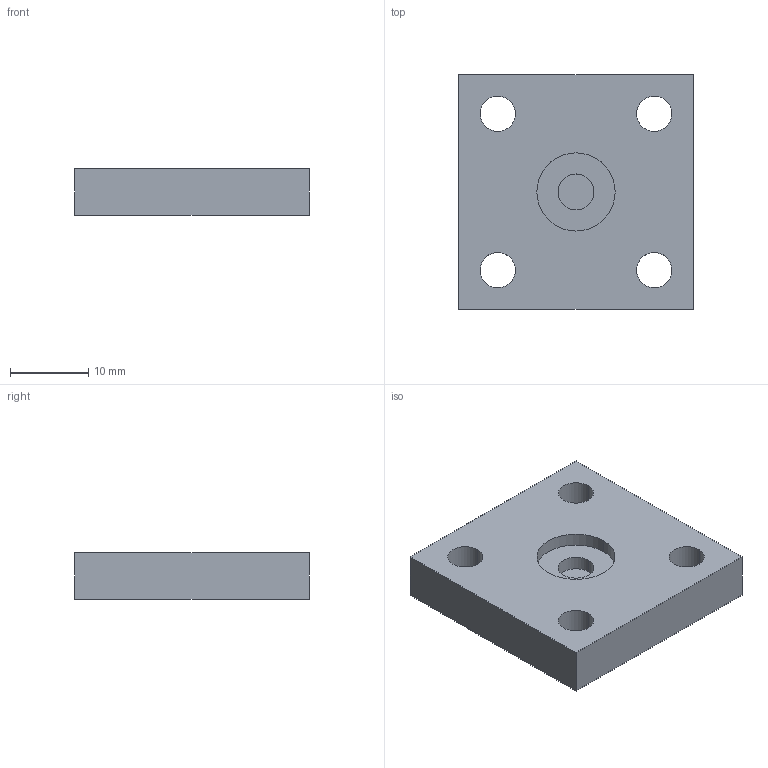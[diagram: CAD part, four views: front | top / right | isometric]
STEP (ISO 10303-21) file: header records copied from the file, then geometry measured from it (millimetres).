
FILE_DESCRIPTION(('CATIA V5 STEP Exchange'),'2;1');
FILE_NAME('D:\姚明阳\1、工装图纸\AGZ013 VDC阀压活塞治具\AGZ13.02_V2.stp','2024-11-20T08:49:15+00:00',('none'),('none'),'CATIA Version 5 Release 21 GA (IN-10)','CATIA V5 STEP AP214','none');
FILE_SCHEMA(('AUTOMOTIVE_DESIGN { 1 0 10303 214 1 1 1 1 }'));
Length unit declared in the file: millimetre
Products named in the file (1): qiankuai
Bounding box: 30 x 30 x 6 mm (x, y, z)
Volume: 4854.9 mm3; surface area: 2811.5 mm2
Topology: 1 solids, 1 shells, 20 faces, 48 edges, 32 vertices
Faces by surface type: cylinder 12, plane 8
Entity records: 580 total; most frequent: ORIENTED_EDGE 96, CARTESIAN_POINT 95, DIRECTION 76, EDGE_CURVE 48, AXIS2_PLACEMENT_3D 39, VERTEX_POINT 32, EDGE_LOOP 30, VECTOR 24
